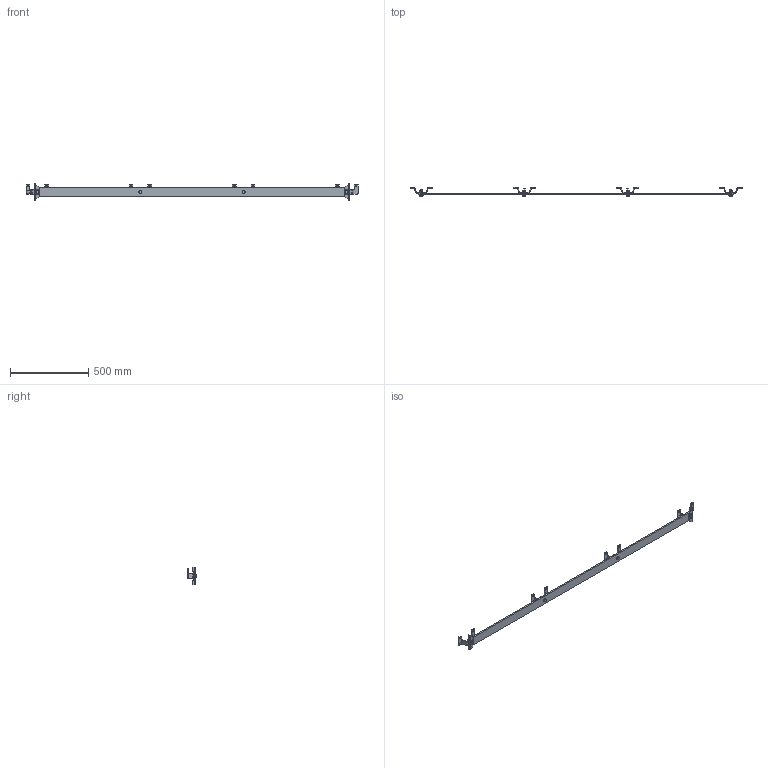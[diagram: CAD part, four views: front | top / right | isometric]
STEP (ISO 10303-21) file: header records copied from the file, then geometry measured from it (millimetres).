
FILE_DESCRIPTION(/* description */ ('Sortiment 4'),/* implementation_level */ '2;1');
FILE_NAME(/* name */ 'D:\Public\STP\010330120-TP.stp',/* time_stamp */ '2020-05-13T16:46:33+02:00',/* author */ ('M.Barta'),/* organization */ (''),/* preprocessor_version */ 'ST-DEVELOPER v17.2',/* originating_system */ 'Autodesk Inventor 2019',/* authorisation */ '');
FILE_SCHEMA (('AUTOMOTIVE_DESIGN { 1 0 10303 214 3 1 1 }'));
Length unit declared in the file: millimetre
Products named in the file (8): 010330120; 377000394; 337000390; 010330102; DIN 125 - A 10,5; DIN EN ISO 4032 - M10; DIN_EN_ISO_4017-M10x40_en; DIN 127 - A 10
Assembly tree (27 placements, depth 2):
  010330120
    377000394
    337000390  x2
    010330102  x4
    DIN 125 - A 10,5  x8
    DIN EN ISO 4032 - M10  x4
    DIN_EN_ISO_4017-M10x40_en  x4
    DIN 127 - A 10  x4
Bounding box: 2124 x 60.4 x 110 mm (x, y, z)
Volume: 1387664.4 mm3; surface area: 385887.7 mm2
Topology: 27 solids, 27 shells, 486 faces, 1184 edges, 764 vertices
Faces by surface type: plane 278, cylinder 156, cone 48, bspline 4
Full cylindrical faces by diameter (mm): 8.376 x4, 9.188 x4, 10 x4, 10.5 x12, 11 x8, 15.4 x4, 20 x8
Entity records: 4801 total; most frequent: CARTESIAN_POINT 902, DIRECTION 788, ORIENTED_EDGE 708, EDGE_CURVE 354, AXIS2_PLACEMENT_3D 292, VERTEX_POINT 230, LINE 204, VECTOR 204
